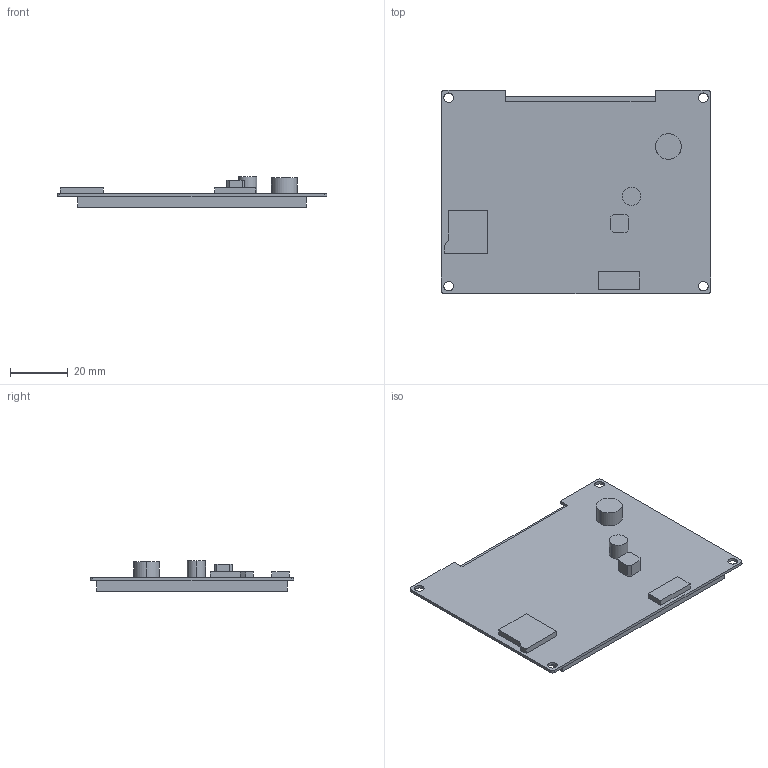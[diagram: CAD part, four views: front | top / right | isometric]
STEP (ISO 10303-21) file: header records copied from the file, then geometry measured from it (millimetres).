
FILE_DESCRIPTION((''),'2;1');
FILE_NAME('3D-DMG32240C035-03WTR','2023-03-15T',('Administrator'),(''),'PRO/ENGINEER BY PARAMETRIC TECHNOLOGY CORPORATION, 2011310','PRO/ENGINEER BY PARAMETRIC TECHNOLOGY CORPORATION, 2011310','');
FILE_SCHEMA(('CONFIG_CONTROL_DESIGN','SHAPE_APPEARANCE_LAYERS_GROUPS'));
Products named in the file (1): 3D-DMG32240C035-03WTR
Bounding box: 92.96 x 70.1 x 10.55 mm (x, y, z)
Volume: 25432.2 mm3; surface area: 14879.8 mm2
Topology: 1 solids, 1 shells, 61 faces, 6854 edges, 11404 vertices
Faces by surface type: plane 45, cylinder 16
Entity records: 57641 total; most frequent: DIRECTION 9104, CARTESIAN_POINT 7020, CURVE_STYLE 6698, PRESENTATION_STYLE_ASSIGNMENT 6698, STYLED_ITEM 6698, TRIMMED_CURVE 6697, VECTOR 4728, LINE 4728
